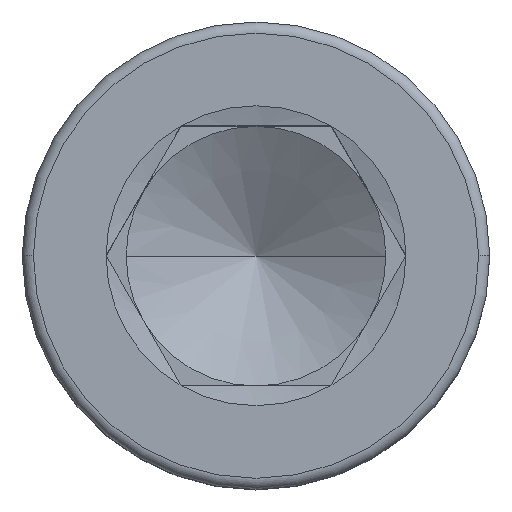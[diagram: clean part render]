
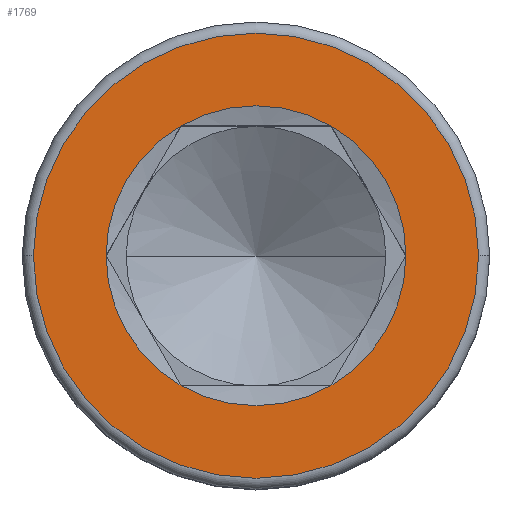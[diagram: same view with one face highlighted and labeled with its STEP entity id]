
A CAD part, top view. The second image highlights one B-rep face of the part: STEP entity #1769.
In plain terms, the highlighted planar face has unit normal (0, 0, 1).
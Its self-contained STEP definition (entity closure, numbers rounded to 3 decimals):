
#2 = EDGE_LOOP ( 'NONE', ( #1289, #277 ) ) ;
#16 = AXIS2_PLACEMENT_3D ( 'NONE', #772, #1460, #621 ) ;
#38 = DIRECTION ( 'NONE',  ( 1., 0., 0. ) ) ;
#52 = VERTEX_POINT ( 'NONE', #1512 ) ;
#109 = CIRCLE ( 'NONE', #632, 5.774 ) ;
#130 = VERTEX_POINT ( 'NONE', #298 ) ;
#133 = DIRECTION ( 'NONE',  ( 1., 0., 0. ) ) ;
#174 = DIRECTION ( 'NONE',  ( 1., 0., 0. ) ) ;
#230 = DIRECTION ( 'NONE',  ( 0., 0., 1. ) ) ;
#240 = EDGE_CURVE ( 'NONE', #130, #1481, #1505, .T. ) ;
#247 = AXIS2_PLACEMENT_3D ( 'NONE', #1131, #1282, #38 ) ;
#271 = VERTEX_POINT ( 'NONE', #643 ) ;
#272 = CIRCLE ( 'NONE', #1424, 8.57 ) ;
#277 = ORIENTED_EDGE ( 'NONE', *, *, #1206, .T. ) ;
#278 = AXIS2_PLACEMENT_3D ( 'NONE', #1459, #230, #514 ) ;
#284 = EDGE_CURVE ( 'NONE', #1652, #271, #796, .T. ) ;
#298 = CARTESIAN_POINT ( 'NONE',  ( 2.887, -5., 12. ) ) ;
#328 = CARTESIAN_POINT ( 'NONE',  ( 0., 0., 12. ) ) ;
#355 = EDGE_LOOP ( 'NONE', ( #1670, #1052, #1741, #898, #1071, #1105 ) ) ;
#388 = PLANE ( 'NONE',  #1456 ) ;
#423 = DIRECTION ( 'NONE',  ( 0., 0., 1. ) ) ;
#432 = DIRECTION ( 'NONE',  ( 1., 0., 0. ) ) ;
#438 = CARTESIAN_POINT ( 'NONE',  ( -2.887, 5., 12. ) ) ;
#475 = VERTEX_POINT ( 'NONE', #1605 ) ;
#514 = DIRECTION ( 'NONE',  ( 1., 0., 0. ) ) ;
#543 = CIRCLE ( 'NONE', #1686, 5.774 ) ;
#551 = DIRECTION ( 'NONE',  ( 0., 0., 1. ) ) ;
#579 = CARTESIAN_POINT ( 'NONE',  ( 5.774, 0., 12. ) ) ;
#621 = DIRECTION ( 'NONE',  ( 1., 0., 0. ) ) ;
#628 = CIRCLE ( 'NONE', #1630, 5.774 ) ;
#632 = AXIS2_PLACEMENT_3D ( 'NONE', #1795, #551, #133 ) ;
#643 = CARTESIAN_POINT ( 'NONE',  ( -5.774, 0., 12. ) ) ;
#740 = CIRCLE ( 'NONE', #247, 8.57 ) ;
#772 = CARTESIAN_POINT ( 'NONE',  ( 0., 0., 12. ) ) ;
#776 = DIRECTION ( 'NONE',  ( 1., 0., 0. ) ) ;
#796 = CIRCLE ( 'NONE', #16, 5.774 ) ;
#803 = CARTESIAN_POINT ( 'NONE',  ( 0., 0., 12. ) ) ;
#814 = CARTESIAN_POINT ( 'NONE',  ( 2.887, 5., 12. ) ) ;
#821 = DIRECTION ( 'NONE',  ( 0., 0., 1. ) ) ;
#838 = EDGE_CURVE ( 'NONE', #52, #1338, #272, .T. ) ;
#882 = DIRECTION ( 'NONE',  ( 0., 0., 1. ) ) ;
#898 = ORIENTED_EDGE ( 'NONE', *, *, #1752, .F. ) ;
#942 = CARTESIAN_POINT ( 'NONE',  ( 0., 0., 12. ) ) ;
#963 = FACE_BOUND ( 'NONE', #355, .T. ) ;
#975 = DIRECTION ( 'NONE',  ( 0., 0., 1. ) ) ;
#1018 = EDGE_CURVE ( 'NONE', #1481, #1390, #543, .T. ) ;
#1020 = DIRECTION ( 'NONE',  ( 1., 0., 0. ) ) ;
#1031 = CARTESIAN_POINT ( 'NONE',  ( 0., 0., 12. ) ) ;
#1052 = ORIENTED_EDGE ( 'NONE', *, *, #240, .F. ) ;
#1071 = ORIENTED_EDGE ( 'NONE', *, *, #284, .F. ) ;
#1105 = ORIENTED_EDGE ( 'NONE', *, *, #1316, .F. ) ;
#1131 = CARTESIAN_POINT ( 'NONE',  ( 0., 0., 12. ) ) ;
#1206 = EDGE_CURVE ( 'NONE', #1338, #52, #740, .T. ) ;
#1267 = CARTESIAN_POINT ( 'NONE',  ( 0., 0., 12. ) ) ;
#1282 = DIRECTION ( 'NONE',  ( 0., 0., 1. ) ) ;
#1289 = ORIENTED_EDGE ( 'NONE', *, *, #838, .T. ) ;
#1300 = DIRECTION ( 'NONE',  ( 0., 0., 1. ) ) ;
#1316 = EDGE_CURVE ( 'NONE', #1390, #1652, #1452, .T. ) ;
#1338 = VERTEX_POINT ( 'NONE', #1738 ) ;
#1390 = VERTEX_POINT ( 'NONE', #814 ) ;
#1424 = AXIS2_PLACEMENT_3D ( 'NONE', #328, #882, #776 ) ;
#1449 = AXIS2_PLACEMENT_3D ( 'NONE', #1031, #1300, #1020 ) ;
#1452 = CIRCLE ( 'NONE', #278, 5.774 ) ;
#1456 = AXIS2_PLACEMENT_3D ( 'NONE', #803, #975, #1514 ) ;
#1459 = CARTESIAN_POINT ( 'NONE',  ( 0., 0., 12. ) ) ;
#1460 = DIRECTION ( 'NONE',  ( 0., 0., 1. ) ) ;
#1481 = VERTEX_POINT ( 'NONE', #579 ) ;
#1491 = EDGE_CURVE ( 'NONE', #475, #130, #628, .T. ) ;
#1505 = CIRCLE ( 'NONE', #1449, 5.774 ) ;
#1512 = CARTESIAN_POINT ( 'NONE',  ( 8.57, 0., 12. ) ) ;
#1514 = DIRECTION ( 'NONE',  ( 1., 0., 0. ) ) ;
#1605 = CARTESIAN_POINT ( 'NONE',  ( -2.887, -5., 12. ) ) ;
#1630 = AXIS2_PLACEMENT_3D ( 'NONE', #1267, #821, #174 ) ;
#1652 = VERTEX_POINT ( 'NONE', #438 ) ;
#1670 = ORIENTED_EDGE ( 'NONE', *, *, #1018, .F. ) ;
#1686 = AXIS2_PLACEMENT_3D ( 'NONE', #942, #423, #432 ) ;
#1738 = CARTESIAN_POINT ( 'NONE',  ( -8.57, 0., 12. ) ) ;
#1741 = ORIENTED_EDGE ( 'NONE', *, *, #1491, .F. ) ;
#1752 = EDGE_CURVE ( 'NONE', #271, #475, #109, .T. ) ;
#1769 = ADVANCED_FACE ( 'NONE', ( #1775, #963 ), #388, .T. ) ;
#1775 = FACE_OUTER_BOUND ( 'NONE', #2, .T. ) ;
#1795 = CARTESIAN_POINT ( 'NONE',  ( 0., 0., 12. ) ) ;
